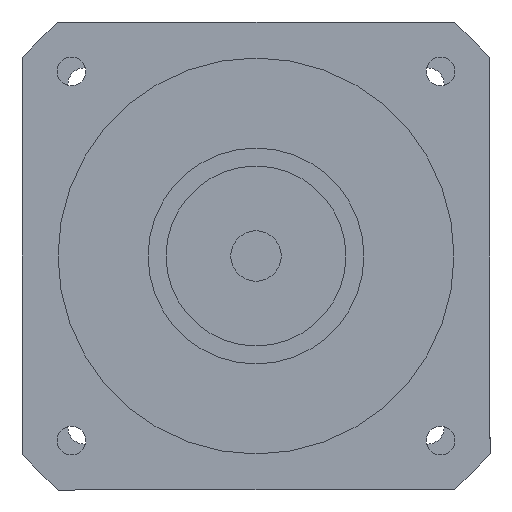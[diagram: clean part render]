
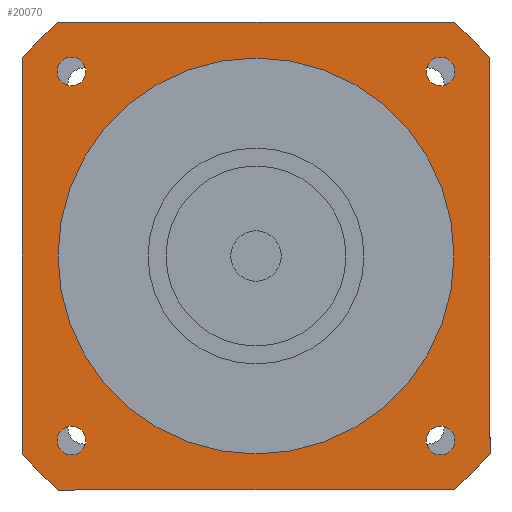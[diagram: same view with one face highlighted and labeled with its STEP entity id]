
A CAD part, left-side view. The second image highlights one B-rep face of the part: STEP entity #20070.
In plain terms, the highlighted planar face has unit normal (-1, 0, 0) as drawn and (0, 0, -1) by its records, which use the part's own axes.
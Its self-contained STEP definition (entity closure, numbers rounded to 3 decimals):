
#16070=CARTESIAN_POINT('',(-65.,54.772,-119.));
#16080=VERTEX_POINT('',#16070);
#16230=CARTESIAN_POINT('',(-65.,-54.772,-119.));
#16240=VERTEX_POINT('',#16230);
#16270=CARTESIAN_POINT('',(-65.,65.,-119.));
#16280=DIRECTION('',(0.,-1.,0.));
#16290=VECTOR('',#16280,1000.);
#16300=LINE('',#16270,#16290);
#16310=EDGE_CURVE('',#16080,#16240,#16300,.T.);
#16470=CARTESIAN_POINT('',(54.772,65.,-119.));
#16480=VERTEX_POINT('',#16470);
#16630=CARTESIAN_POINT('',(-54.772,65.,-119.));
#16640=VERTEX_POINT('',#16630);
#16670=CARTESIAN_POINT('',(65.,65.,-119.));
#16680=DIRECTION('',(-1.,0.,0.));
#16690=VECTOR('',#16680,1000.);
#16700=LINE('',#16670,#16690);
#16710=EDGE_CURVE('',#16480,#16640,#16700,.T.);
#18510=CARTESIAN_POINT('',(0.,0.,
-119.));
#18520=DIRECTION('',(0.,0.,1.));
#18530=DIRECTION('',(0.,-1.,0.));
#18540=AXIS2_PLACEMENT_3D('',#18510,#18520,#18530);
#18550=CIRCLE('',#18540,85.);
#18560=EDGE_CURVE('',#16640,#16080,#18550,.T.);
#18610=CARTESIAN_POINT('',(-65.,65.,-119.));
#18620=DIRECTION('',(0.,0.,1.));
#18630=DIRECTION('',(-1.,0.,0.));
#18640=AXIS2_PLACEMENT_3D('',#18610,#18620,#18630);
#18650=PLANE('',#18640);
#18660=CARTESIAN_POINT('',(51.265,-51.265,-119.));
#18670=DIRECTION('',(0.,0.,-1.));
#18680=DIRECTION('',(1.,0.,0.));
#18690=AXIS2_PLACEMENT_3D('',#18660,#18670,#18680);
#18700=CIRCLE('',#18690,4.);
#18710=CARTESIAN_POINT('',(55.265,-51.265,-119.));
#18720=VERTEX_POINT('',#18710);
#18730=CARTESIAN_POINT('',(51.265,-55.265,-119.));
#18740=VERTEX_POINT('',#18730);
#18750=EDGE_CURVE('',#18720,#18740,#18700,.T.);
#18760=ORIENTED_EDGE('',*,*,#18750,.F.);
#18770=CARTESIAN_POINT('',(51.265,-47.265,-119.));
#18780=VERTEX_POINT('',#18770);
#18790=EDGE_CURVE('',#18740,#18780,#18700,.T.);
#18800=ORIENTED_EDGE('',*,*,#18790,.F.);
#18810=EDGE_CURVE('',#18780,#18720,#18700,.T.);
#18820=ORIENTED_EDGE('',*,*,#18810,.F.);
#18830=EDGE_LOOP('',(#18820,#18800,#18760));
#18840=FACE_BOUND('',#18830,.T.);
#18850=CARTESIAN_POINT('',(51.265,51.265,-119.));
#18860=DIRECTION('',(0.,0.,-1.));
#18870=DIRECTION('',(0.,1.,0.));
#18880=AXIS2_PLACEMENT_3D('',#18850,#18860,#18870);
#18890=CIRCLE('',#18880,4.);
#18900=CARTESIAN_POINT('',(51.265,55.265,-119.));
#18910=VERTEX_POINT('',#18900);
#18920=CARTESIAN_POINT('',(55.265,51.265,-119.));
#18930=VERTEX_POINT('',#18920);
#18940=EDGE_CURVE('',#18910,#18930,#18890,.T.);
#18950=ORIENTED_EDGE('',*,*,#18940,.F.);
#18960=CARTESIAN_POINT('',(47.265,51.265,-119.));
#18970=VERTEX_POINT('',#18960);
#18980=EDGE_CURVE('',#18930,#18970,#18890,.T.);
#18990=ORIENTED_EDGE('',*,*,#18980,.F.);
#19000=EDGE_CURVE('',#18970,#18910,#18890,.T.);
#19010=ORIENTED_EDGE('',*,*,#19000,.F.);
#19020=EDGE_LOOP('',(#19010,#18990,#18950));
#19030=FACE_BOUND('',#19020,.T.);
#19040=CARTESIAN_POINT('',(-51.265,51.265,-119.));
#19050=DIRECTION('',(0.,0.,-1.));
#19060=DIRECTION('',(-1.,0.,0.));
#19070=AXIS2_PLACEMENT_3D('',#19040,#19050,#19060);
#19080=CIRCLE('',#19070,4.);
#19090=CARTESIAN_POINT('',(-55.265,51.265,-119.));
#19100=VERTEX_POINT('',#19090);
#19110=CARTESIAN_POINT('',(-51.265,55.265,-119.));
#19120=VERTEX_POINT('',#19110);
#19130=EDGE_CURVE('',#19100,#19120,#19080,.T.);
#19140=ORIENTED_EDGE('',*,*,#19130,.F.);
#19150=CARTESIAN_POINT('',(-51.265,47.265,-119.));
#19160=VERTEX_POINT('',#19150);
#19170=EDGE_CURVE('',#19120,#19160,#19080,.T.);
#19180=ORIENTED_EDGE('',*,*,#19170,.F.);
#19190=EDGE_CURVE('',#19160,#19100,#19080,.T.);
#19200=ORIENTED_EDGE('',*,*,#19190,.F.);
#19210=EDGE_LOOP('',(#19200,#19180,#19140));
#19220=FACE_BOUND('',#19210,.T.);
#19230=CARTESIAN_POINT('',(-51.265,-51.265,-119.));
#19240=DIRECTION('',(0.,0.,-1.));
#19250=DIRECTION('',(0.,-1.,0.));
#19260=AXIS2_PLACEMENT_3D('',#19230,#19240,#19250);
#19270=CIRCLE('',#19260,4.);
#19280=CARTESIAN_POINT('',(-51.265,-55.265,-119.));
#19290=VERTEX_POINT('',#19280);
#19300=CARTESIAN_POINT('',(-55.265,-51.265,-119.));
#19310=VERTEX_POINT('',#19300);
#19320=EDGE_CURVE('',#19290,#19310,#19270,.T.);
#19330=ORIENTED_EDGE('',*,*,#19320,.F.);
#19340=CARTESIAN_POINT('',(-47.265,-51.265,-119.));
#19350=VERTEX_POINT('',#19340);
#19360=EDGE_CURVE('',#19310,#19350,#19270,.T.);
#19370=ORIENTED_EDGE('',*,*,#19360,.F.);
#19380=EDGE_CURVE('',#19350,#19290,#19270,.T.);
#19390=ORIENTED_EDGE('',*,*,#19380,.F.);
#19400=EDGE_LOOP('',(#19390,#19370,#19330));
#19410=FACE_BOUND('',#19400,.T.);
#19420=CARTESIAN_POINT('',(0.,0.,
-119.));
#19430=DIRECTION('',(0.,0.,1.));
#19440=DIRECTION('',(0.,-1.,0.));
#19450=AXIS2_PLACEMENT_3D('',#19420,#19430,#19440);
#19460=CIRCLE('',#19450,85.);
#19470=CARTESIAN_POINT('',(-54.772,-65.,-119.));
#19480=VERTEX_POINT('',#19470);
#19490=EDGE_CURVE('',#16240,#19480,#19460,.T.);
#19500=ORIENTED_EDGE('',*,*,#19490,.F.);
#19510=CARTESIAN_POINT('',(-65.,-65.,-119.));
#19520=DIRECTION('',(1.,0.,0.));
#19530=VECTOR('',#19520,1000.);
#19540=LINE('',#19510,#19530);
#19550=CARTESIAN_POINT('',(54.772,-65.,-119.));
#19560=VERTEX_POINT('',#19550);
#19570=EDGE_CURVE('',#19480,#19560,#19540,.T.);
#19580=ORIENTED_EDGE('',*,*,#19570,.F.);
#19590=CARTESIAN_POINT('',(0.,0.,
-119.));
#19600=DIRECTION('',(0.,0.,1.));
#19610=DIRECTION('',(0.,-1.,0.));
#19620=AXIS2_PLACEMENT_3D('',#19590,#19600,#19610);
#19630=CIRCLE('',#19620,85.);
#19640=CARTESIAN_POINT('',(65.,-54.772,-119.));
#19650=VERTEX_POINT('',#19640);
#19660=EDGE_CURVE('',#19560,#19650,#19630,.T.);
#19670=ORIENTED_EDGE('',*,*,#19660,.F.);
#19680=CARTESIAN_POINT('',(65.,-65.,-119.));
#19690=DIRECTION('',(0.,1.,0.));
#19700=VECTOR('',#19690,1000.);
#19710=LINE('',#19680,#19700);
#19720=CARTESIAN_POINT('',(65.,54.772,-119.));
#19730=VERTEX_POINT('',#19720);
#19740=EDGE_CURVE('',#19650,#19730,#19710,.T.);
#19750=ORIENTED_EDGE('',*,*,#19740,.F.);
#19760=CARTESIAN_POINT('',(0.,0.,
-119.));
#19770=DIRECTION('',(0.,0.,1.));
#19780=DIRECTION('',(0.,-1.,0.));
#19790=AXIS2_PLACEMENT_3D('',#19760,#19770,#19780);
#19800=CIRCLE('',#19790,85.);
#19810=EDGE_CURVE('',#19730,#16480,#19800,.T.);
#19820=ORIENTED_EDGE('',*,*,#19810,.F.);
#19830=ORIENTED_EDGE('',*,*,#16710,.F.);
#19840=ORIENTED_EDGE('',*,*,#18560,.F.);
#19850=ORIENTED_EDGE('',*,*,#16310,.F.);
#19860=EDGE_LOOP('',(#19850,#19840,#19830,#19820,#19750,#19670,#19580,
#19500));
#19870=FACE_OUTER_BOUND('',#19860,.T.);
#19880=CARTESIAN_POINT('',(0.,0.,
-119.));
#19890=DIRECTION('',(0.,0.,1.));
#19900=DIRECTION('',(0.,-1.,0.));
#19910=AXIS2_PLACEMENT_3D('',#19880,#19890,#19900);
#19920=CIRCLE('',#19910,55.);
#19930=CARTESIAN_POINT('',(55.,0.,-119.));
#19940=VERTEX_POINT('',#19930);
#19950=CARTESIAN_POINT('',(-55.,0.,-119.));
#19960=VERTEX_POINT('',#19950);
#19970=EDGE_CURVE('',#19940,#19960,#19920,.T.);
#19980=ORIENTED_EDGE('',*,*,#19970,.T.);
#19990=CARTESIAN_POINT('',(0.,-55.,-119.));
#20000=VERTEX_POINT('',#19990);
#20010=EDGE_CURVE('',#20000,#19940,#19920,.T.);
#20020=ORIENTED_EDGE('',*,*,#20010,.T.);
#20030=EDGE_CURVE('',#19960,#20000,#19920,.T.);
#20040=ORIENTED_EDGE('',*,*,#20030,.T.);
#20050=EDGE_LOOP('',(#20040,#20020,#19980));
#20060=FACE_BOUND('',#20050,.T.);
#20070=ADVANCED_FACE('',(#18840,#19030,#19220,#19410,#19870,#20060),
#18650,.F.);
